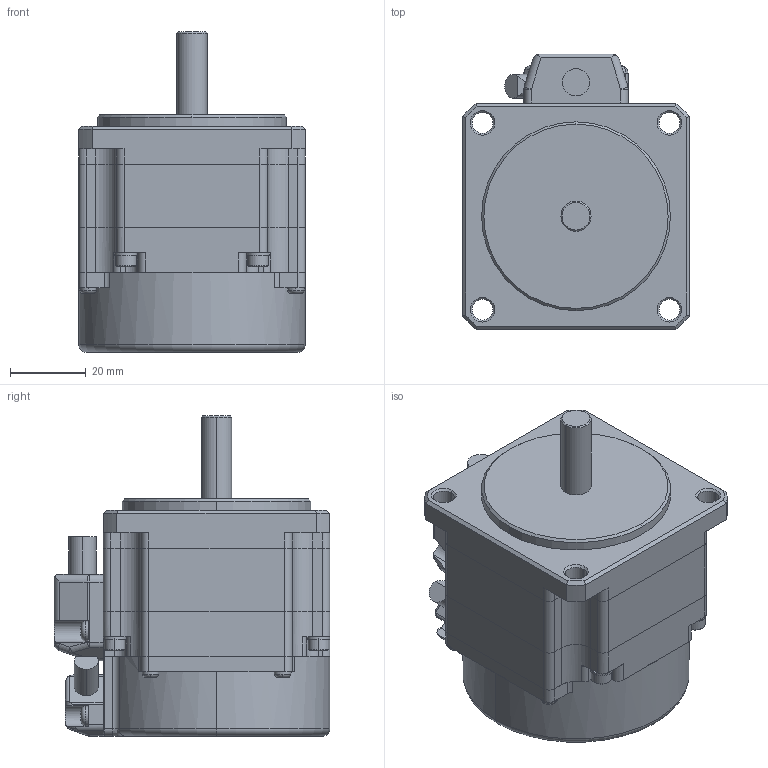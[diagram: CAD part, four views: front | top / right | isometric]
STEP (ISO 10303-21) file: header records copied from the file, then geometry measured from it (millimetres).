
FILE_DESCRIPTION (( 'STEP AP203' ), '1' );
FILE_NAME ('TS4606.STEP', '2010-08-06T14:16:14', ( 'render' ), ( '' ), 'SwSTEP 2.0', 'SolidWorks 2009', '' );
FILE_SCHEMA (( 'CONFIG_CONTROL_DESIGN' ));
Length unit declared in the file: millimetre
Products named in the file (1): TS4606
Bounding box: 60 x 73 x 84.8 mm (x, y, z)
Volume: 204606.2 mm3; surface area: 43452 mm2
Topology: 4 solids, 4 shells, 710 faces, 1660 edges, 965 vertices
Faces by surface type: plane 320, cylinder 245, cone 75, sphere 28, torus 22, bspline 20
Entity records: 20829 total; most frequent: CARTESIAN_POINT 4567, DIRECTION 3626, ORIENTED_EDGE 3302, EDGE_CURVE 1651, AXIS2_PLACEMENT_3D 1443, VERTEX_POINT 965, CIRCLE 752, LINE 740
